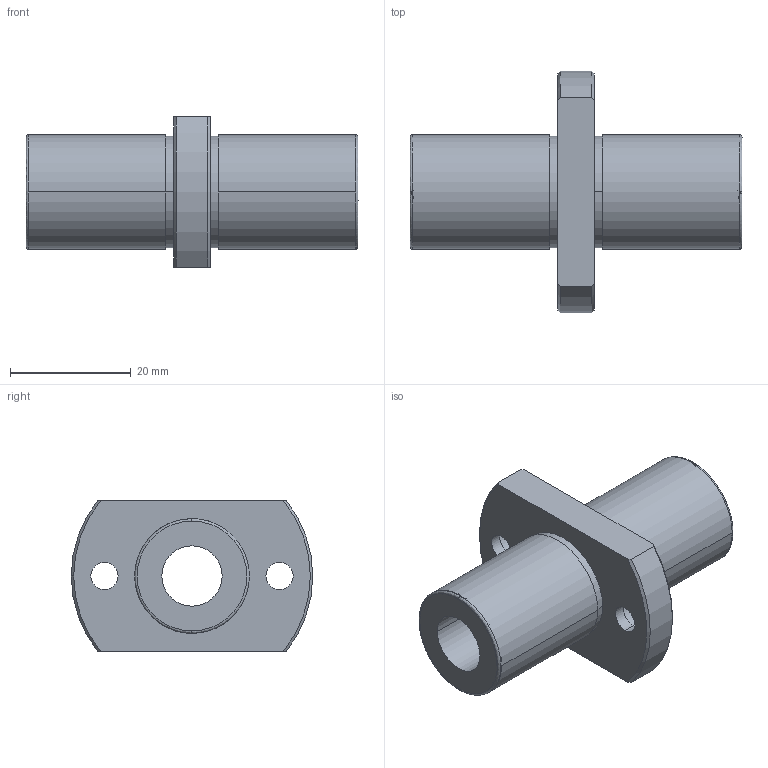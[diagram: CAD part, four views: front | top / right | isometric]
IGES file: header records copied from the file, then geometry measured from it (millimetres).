
Start section: 3D InterOp IGES (Version 21 0 1), Spatial Corp. Copyright (c) 1999-2007.
Global section: file name: NFCO-10VLUU.igs; native system: Spatial Corp.; preprocessor: 3D InterOp GENERIC/IGES 3.0; author: Noname; organization: Noname; date: 20220308.143537; units: millimetre
Bounding box: 55 x 40 x 25 mm (x, y, z)
Surface area: 7673.4 mm2 (no closed solid volume)
Topology: 0 solids, 0 shells, 41 faces, 202 edges, 198 vertices
Faces by surface type: revolution 31, extrusion 10
